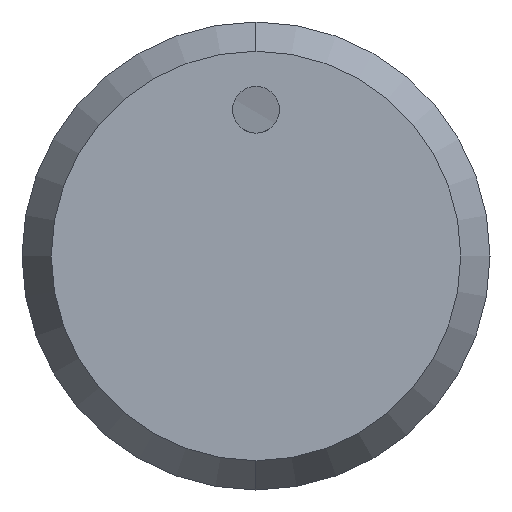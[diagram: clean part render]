
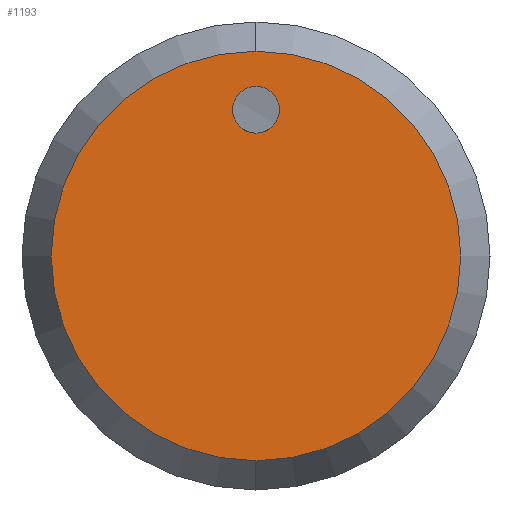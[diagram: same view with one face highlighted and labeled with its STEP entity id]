
A CAD part, left-side view. The second image highlights one B-rep face of the part: STEP entity #1193.
In plain terms, the highlighted planar face has unit normal (-1, 0, 0).
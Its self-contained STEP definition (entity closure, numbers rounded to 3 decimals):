
#28 = AXIS2_PLACEMENT_3D ( 'NONE', #810, #346, #269 ) ;
#63 = ORIENTED_EDGE ( 'NONE', *, *, #558, .T. ) ;
#106 = AXIS2_PLACEMENT_3D ( 'NONE', #261, #624, #429 ) ;
#109 = EDGE_LOOP ( 'NONE', ( #187, #63 ) ) ;
#138 = AXIS2_PLACEMENT_3D ( 'NONE', #1080, #789, #408 ) ;
#151 = EDGE_CURVE ( 'NONE', #860, #1195, #763, .T. ) ;
#187 = ORIENTED_EDGE ( 'NONE', *, *, #151, .T. ) ;
#194 = FACE_OUTER_BOUND ( 'NONE', #208, .T. ) ;
#200 = EDGE_CURVE ( 'NONE', #629, #727, #246, .T. ) ;
#208 = EDGE_LOOP ( 'NONE', ( #928, #721 ) ) ;
#246 = CIRCLE ( 'NONE', #761, 14. ) ;
#261 = CARTESIAN_POINT ( 'NONE',  ( -5.5, 0., 0. ) ) ;
#269 = DIRECTION ( 'NONE',  ( 0., -1., 0. ) ) ;
#278 = CARTESIAN_POINT ( 'NONE',  ( -5.5, -1.6, 10. ) ) ;
#346 = DIRECTION ( 'NONE',  ( -1., 0., 0. ) ) ;
#405 = CARTESIAN_POINT ( 'NONE',  ( -5.5, 1.6, 10. ) ) ;
#408 = DIRECTION ( 'NONE',  ( 0., 1., 0. ) ) ;
#429 = DIRECTION ( 'NONE',  ( 0., 1., 0. ) ) ;
#468 = CIRCLE ( 'NONE', #28, 14. ) ;
#507 = DIRECTION ( 'NONE',  ( 1., 0., 0. ) ) ;
#558 = EDGE_CURVE ( 'NONE', #1195, #860, #1198, .T. ) ;
#624 = DIRECTION ( 'NONE',  ( 1., 0., 0. ) ) ;
#629 = VERTEX_POINT ( 'NONE', #1101 ) ;
#702 = CARTESIAN_POINT ( 'NONE',  ( -5.5, 0., 10. ) ) ;
#721 = ORIENTED_EDGE ( 'NONE', *, *, #200, .T. ) ;
#727 = VERTEX_POINT ( 'NONE', #1175 ) ;
#761 = AXIS2_PLACEMENT_3D ( 'NONE', #826, #907, #950 ) ;
#763 = CIRCLE ( 'NONE', #138, 1.6 ) ;
#788 = DIRECTION ( 'NONE',  ( 0., 1., 0. ) ) ;
#789 = DIRECTION ( 'NONE',  ( 1., 0., 0. ) ) ;
#810 = CARTESIAN_POINT ( 'NONE',  ( -5.5, 0., 0. ) ) ;
#826 = CARTESIAN_POINT ( 'NONE',  ( -5.5, 0., 0. ) ) ;
#860 = VERTEX_POINT ( 'NONE', #405 ) ;
#907 = DIRECTION ( 'NONE',  ( -1., 0., 0. ) ) ;
#928 = ORIENTED_EDGE ( 'NONE', *, *, #1109, .T. ) ;
#932 = FACE_BOUND ( 'NONE', #109, .T. ) ;
#950 = DIRECTION ( 'NONE',  ( 0., -1., 0. ) ) ;
#999 = AXIS2_PLACEMENT_3D ( 'NONE', #702, #507, #788 ) ;
#1012 = PLANE ( 'NONE',  #106 ) ;
#1080 = CARTESIAN_POINT ( 'NONE',  ( -5.5, 0., 10. ) ) ;
#1101 = CARTESIAN_POINT ( 'NONE',  ( -5.5, 14., 0. ) ) ;
#1109 = EDGE_CURVE ( 'NONE', #727, #629, #468, .T. ) ;
#1175 = CARTESIAN_POINT ( 'NONE',  ( -5.5, -14., 0. ) ) ;
#1193 = ADVANCED_FACE ( 'NONE', ( #932, #194 ), #1012, .F. ) ;
#1195 = VERTEX_POINT ( 'NONE', #278 ) ;
#1198 = CIRCLE ( 'NONE', #999, 1.6 ) ;
